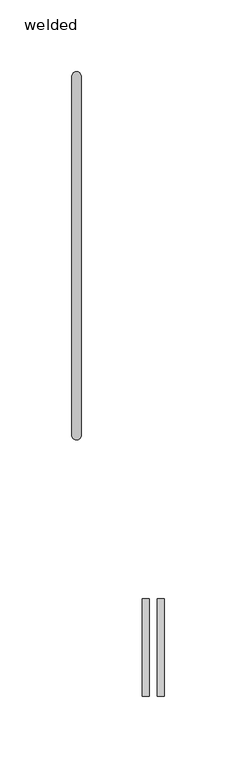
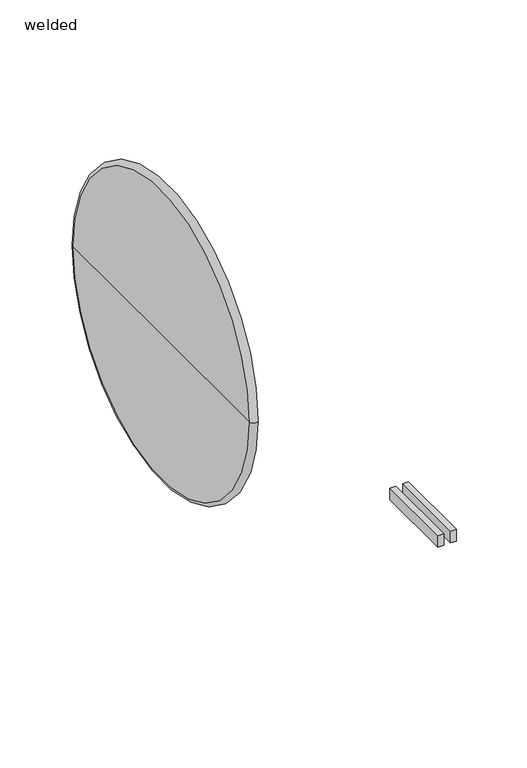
"""IFC4 building model written with IfcOpenShell, lengths in millimetres: pipe fitting geometry, PIF_HDPE weld_Akatherm : welded."""

from ifc_helpers import new_model, si_unit, point, frame, origin, place, context, project, spatial, polyline, circle_curve, ellipse_curve, trimmed, outline, extrude, source, transform, mapped, element, save
from ifc_brep_helpers import plane_surface, revolved_surface, advanced_brep


def welded_ed6f555c(model_context):
    return source(origin(), model_context, "Body", "SolidModel", [
        extrude(outline(polyline([(42.5311847, -306.9421922), (42.5311847, -239.143993), (47.3087456, -239.143993), (47.3087456, -306.9421922), (42.5311847, -306.9421922)])), frame((0.0, 0.0, -15.0), z_axis=(0.0, 0.0, 1.0), x_axis=(1.0, 0.0, 0.0)), (0.0, 0.0, 1.0), 10.0),
        extrude(outline(polyline([(52.9005519, -306.9421922), (52.9005519, -239.143993), (57.6781127, -239.143993), (57.6781127, -306.9421922), (52.9005519, -306.9421922)])), frame((0.0, 0.0, -15.0), z_axis=(0.0, 0.0, 1.0), x_axis=(1.0, 0.0, 0.0)), (0.0, 0.0, 1.0), 10.0),
        advanced_brep(
        [(-6.7, -125.0, 0.0), (-6.7, 125.0, 0.0), (0.0, 125.0, 0.0), (0.0, -125.0, 0.0), (-6.7, 0.0, 0.0), (0.0, 0.0, 0.0)],
        [
            (0, 1, circle_curve(frame((-6.7, 0.0, 0.0), z_axis=(1.0, 0.0, 0.0), x_axis=(0.0, 1.0, 0.0)), 125.0)),
            (1, 2, circle_curve(frame((-3.35, 125.0, 0.0), z_axis=(0.0, 0.0, -1.0), x_axis=(1.0, 0.0, 0.0)), 3.35)),
            (2, 3, circle_curve(frame((0.0, 0.0, 0.0), z_axis=(-1.0, 0.0, 0.0), x_axis=(0.0, 1.0, 0.0)), 125.0)),
            (3, 0, circle_curve(frame((-3.35, -125.0, 0.0), z_axis=(0.0, 0.0, -1.0), x_axis=(1.0, 0.0, 0.0)), 3.35)),
            (1, 0, circle_curve(frame((-6.7, 0.0, 0.0), z_axis=(1.0, 0.0, 0.0), x_axis=(0.0, 1.0, 0.0)), 125.0)),
            (3, 2, circle_curve(frame((0.0, 0.0, 0.0), z_axis=(-1.0, 0.0, 0.0), x_axis=(0.0, 1.0, 0.0)), 125.0)),
            (4, 1),
            (0, 4),
            (2, 5),
            (5, 3),
        ],
        [
            revolved_surface(trimmed(ellipse_curve(frame((-3.35, 125.0, 0.0), z_axis=(0.0, 0.0, 1.0), x_axis=(1.0, 0.0, 0.0)), 3.35, 3.35), [point((0.0, 125.0, 0.0))], [point((-6.7, 125.0, 0.0))], True, "CARTESIAN"), (-44.85, 0.0, 0.0), (-1.0, 0.0, 0.0)),
            plane_surface(frame((-6.7, 0.0, 0.0), z_axis=(-1.0, 0.0, 0.0), x_axis=(0.0, 1.0, 0.0))),
            plane_surface(frame((0.0, 0.0, 0.0), z_axis=(1.0, 0.0, 0.0), x_axis=(0.0, 1.0, 0.0))),
        ],
        [
            (0, [[1, 2, 3, 4]]),
            (0, [[5, -4, 6, -2]]),
            (1, [[7, -1, 8]]),
            (1, [[-8, -5, -7]]),
            (2, [[-3, 9, 10]]),
            (2, [[-6, -10, -9]]),
        ],
    ),
    ])


if __name__ == "__main__":
    model = new_model("IFC4")
    model_context = context("Model", 3, world=origin())
    ifc_project = project(units=[si_unit("LENGTHUNIT", "METRE", prefix="MILLI")], contexts=[model_context])
    site = spatial("IfcSite", under=ifc_project)
    building = spatial("IfcBuilding", under=site)
    placement = place(None, origin())
    welded_shape = welded_ed6f555c(model_context)
    element("IfcPipeFitting", 1, ObjectType="PIF_HDPE weld_Akatherm : welded", at=placement, inside=building, context=model_context, shape_type="MappedRepresentation", body=[
        mapped(welded_shape, transform((0.0, 0.0, 0.0), x_axis=(1.0, 0.0, 0.0), y_axis=(0.0, 1.0, 0.0), z_axis=(0.0, 0.0, 1.0))),
    ])
    save(model, "model.ifc")
